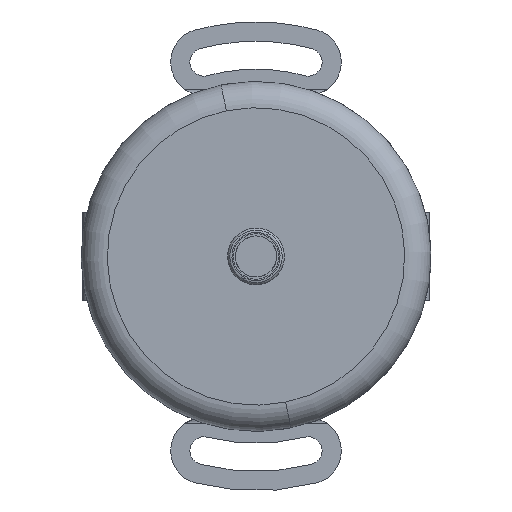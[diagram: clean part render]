
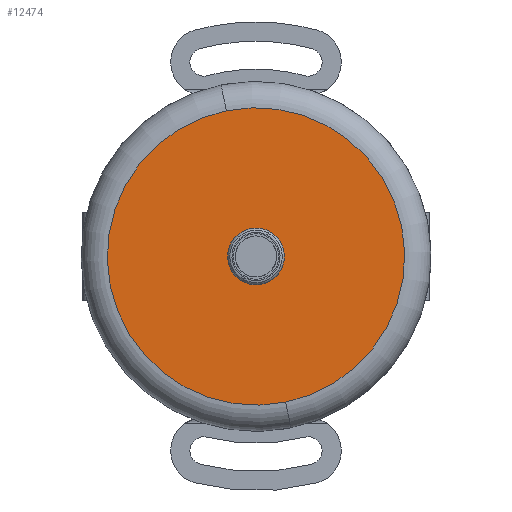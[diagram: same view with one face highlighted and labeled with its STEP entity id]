
A CAD part, left-side view. The second image highlights one B-rep face of the part: STEP entity #12474.
In plain terms, the highlighted planar face has unit normal (-1, 0, 0) as drawn and (0, 0, -1) by its records, which use the part's own axes.
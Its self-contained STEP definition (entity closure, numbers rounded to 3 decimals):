
#275 = ORIENTED_EDGE ( 'NONE', *, *, #6318, .T. ) ;
#1345 = DIRECTION ( 'NONE',  ( 0., 0., 1. ) ) ;
#1900 = CARTESIAN_POINT ( 'NONE',  ( 0., 0., 0. ) ) ;
#2148 = DIRECTION ( 'NONE',  ( 0., 0., 1. ) ) ;
#2633 = EDGE_CURVE ( 'NONE', #5639, #10625, #12655, .T. ) ;
#3239 = EDGE_CURVE ( 'NONE', #10625, #5639, #5888, .T. ) ;
#3390 = ORIENTED_EDGE ( 'NONE', *, *, #3239, .T. ) ;
#3408 = PLANE ( 'NONE',  #10902 ) ;
#3832 = VERTEX_POINT ( 'NONE', #10868 ) ;
#5030 = EDGE_CURVE ( 'NONE', #3832, #6819, #13383, .T. ) ;
#5120 = FACE_OUTER_BOUND ( 'NONE', #7076, .T. ) ;
#5246 = DIRECTION ( 'NONE',  ( 0., 0., -1. ) ) ;
#5533 = DIRECTION ( 'NONE',  ( 0., 0., -1. ) ) ;
#5639 = VERTEX_POINT ( 'NONE', #18585 ) ;
#5678 = AXIS2_PLACEMENT_3D ( 'NONE', #14803, #5533, #16350 ) ;
#5888 = CIRCLE ( 'NONE', #9088, 17. ) ;
#6318 = EDGE_CURVE ( 'NONE', #6819, #3832, #8300, .T. ) ;
#6819 = VERTEX_POINT ( 'NONE', #19343 ) ;
#7076 = EDGE_LOOP ( 'NONE', ( #12859, #3390 ) ) ;
#8217 = DIRECTION ( 'NONE',  ( 0., 0., 1. ) ) ;
#8300 = CIRCLE ( 'NONE', #9644, 3.05 ) ;
#9088 = AXIS2_PLACEMENT_3D ( 'NONE', #14495, #5246, #16065 ) ;
#9495 = AXIS2_PLACEMENT_3D ( 'NONE', #10687, #1345, #12217 ) ;
#9644 = AXIS2_PLACEMENT_3D ( 'NONE', #11489, #2148, #13001 ) ;
#10625 = VERTEX_POINT ( 'NONE', #14764 ) ;
#10687 = CARTESIAN_POINT ( 'NONE',  ( 0., 0., 0. ) ) ;
#10868 = CARTESIAN_POINT ( 'NONE',  ( 3.05, 0., 0. ) ) ;
#10902 = AXIS2_PLACEMENT_3D ( 'NONE', #1900, #8217, #18964 ) ;
#11489 = CARTESIAN_POINT ( 'NONE',  ( 0., 0., 0. ) ) ;
#12217 = DIRECTION ( 'NONE',  ( 1., 0., 0. ) ) ;
#12474 = ADVANCED_FACE ( 'NONE', ( #16971, #5120 ), #3408, .F. ) ;
#12655 = CIRCLE ( 'NONE', #5678, 17. ) ;
#12859 = ORIENTED_EDGE ( 'NONE', *, *, #2633, .T. ) ;
#13001 = DIRECTION ( 'NONE',  ( 1., 0., 0. ) ) ;
#13383 = CIRCLE ( 'NONE', #9495, 3.05 ) ;
#14495 = CARTESIAN_POINT ( 'NONE',  ( 0., 0., 0. ) ) ;
#14764 = CARTESIAN_POINT ( 'NONE',  ( -17., 0., 0. ) ) ;
#14803 = CARTESIAN_POINT ( 'NONE',  ( 0., 0., 0. ) ) ;
#16065 = DIRECTION ( 'NONE',  ( 1., 0., 0. ) ) ;
#16260 = ORIENTED_EDGE ( 'NONE', *, *, #5030, .T. ) ;
#16350 = DIRECTION ( 'NONE',  ( 1., 0., 0. ) ) ;
#16971 = FACE_BOUND ( 'NONE', #19246, .T. ) ;
#18585 = CARTESIAN_POINT ( 'NONE',  ( 17., 0., 0. ) ) ;
#18964 = DIRECTION ( 'NONE',  ( 1., 0., 0. ) ) ;
#19246 = EDGE_LOOP ( 'NONE', ( #16260, #275 ) ) ;
#19343 = CARTESIAN_POINT ( 'NONE',  ( -3.05, 0., 0. ) ) ;
